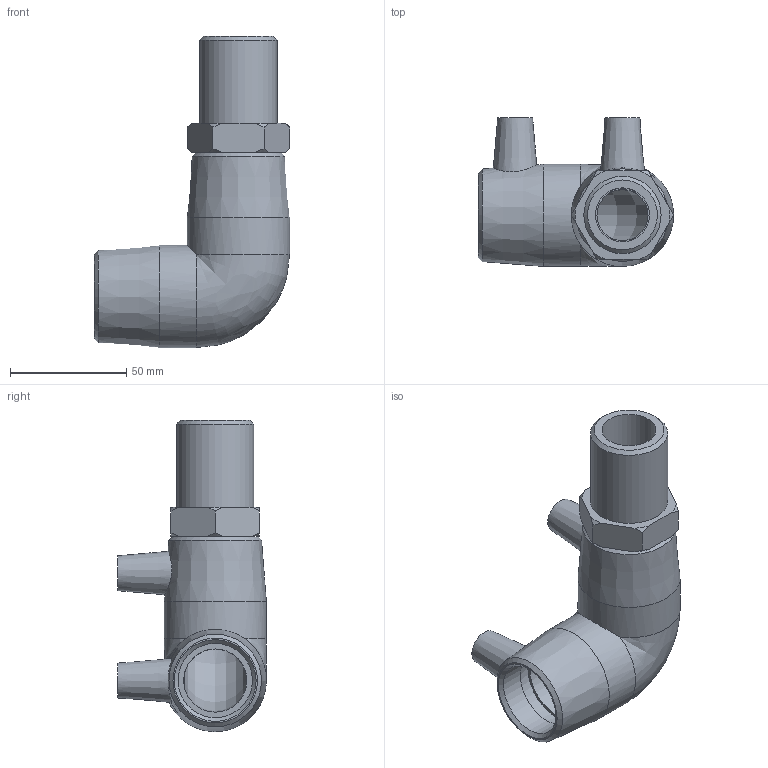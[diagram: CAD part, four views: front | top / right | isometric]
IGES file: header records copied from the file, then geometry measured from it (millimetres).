
Global section: file name: 492504032010N.ipt; native system: Autodesk Inventor 2015; preprocessor: unknown; author: KIM; date: 20200202.122335; units: millimetre
Bounding box: 84 x 64 x 134 mm (x, y, z)
Volume: 134296 mm3; surface area: 41727.8 mm2
Topology: 1 solids, 2 shells, 59 faces, 143 edges, 96 vertices
Faces by surface type: plane 22, cone 19, revolution 10, cylinder 7, bspline 1
Full cylindrical faces by diameter (mm): 4 x2, 32 x2, 33.249 x1, 44 x2
